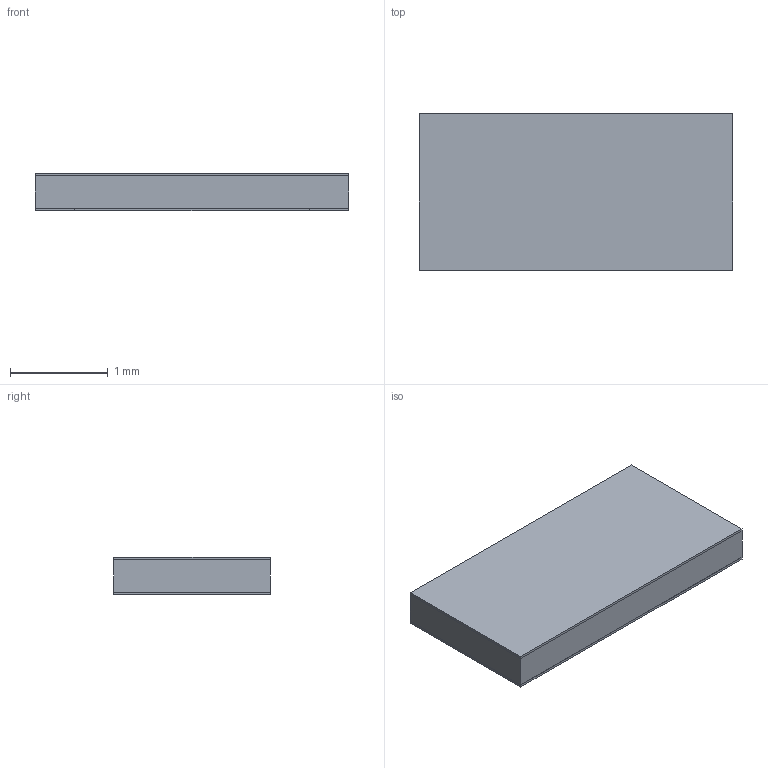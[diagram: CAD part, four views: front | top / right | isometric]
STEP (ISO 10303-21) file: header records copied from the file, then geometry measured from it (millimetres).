
FILE_DESCRIPTION(('STEP AP203'), '1');
FILE_NAME('栖闉罻', '', ('UNSPECIFIED'), ('UNSPECIFIED'), 'ASCON STEP Converter 1.6', 'ASCON Math Kernel', '');
FILE_SCHEMA(('CONFIG_CONTROL_DESIGN'));
Length unit declared in the file: millimetre
Assembly tree (1 placements, depth 2):
  (unnamed)
    (unnamed)
Bounding box: 3.2 x 1.6 x 0.38 mm (x, y, z)
Volume: 1.9 mm3; surface area: 34.7 mm2
Topology: 5 solids, 6 shells, 49 faces, 111 edges, 74 vertices
Faces by surface type: plane 45, cylinder 4
Entity records: 1865 total; most frequent: CARTESIAN_POINT 236, ORIENTED_EDGE 222, DIRECTION 221, EDGE_CURVE 111, LINE 103, VECTOR 103, VERTEX_POINT 74, AXIS2_PLACEMENT_3D 59
